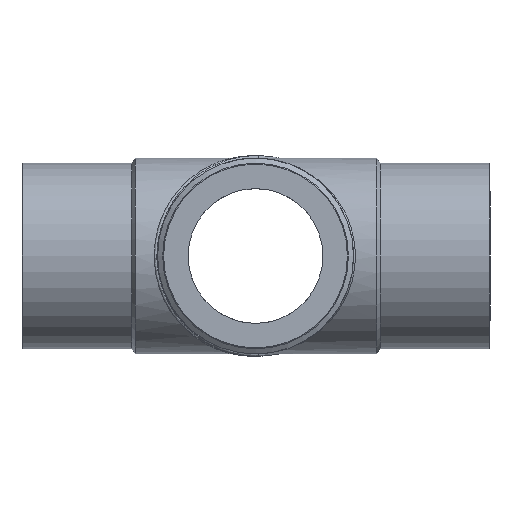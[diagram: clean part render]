
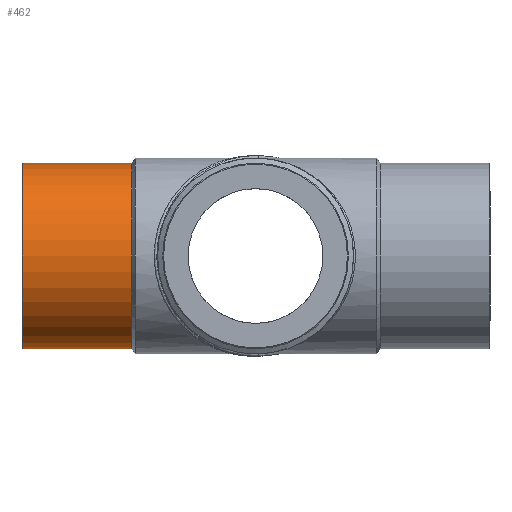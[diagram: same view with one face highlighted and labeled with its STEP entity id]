
A CAD part, front view. The second image highlights one B-rep face of the part: STEP entity #462.
In plain terms, the highlighted cylindrical face has radius 100 mm (diameter 200 mm), a full revolution.
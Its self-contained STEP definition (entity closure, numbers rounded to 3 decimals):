
#46=CIRCLE('',#526,100.);
#47=CIRCLE('',#528,100.);
#70=CYLINDRICAL_SURFACE('',#527,100.);
#120=ORIENTED_EDGE('',*,*,#234,.T.);
#121=ORIENTED_EDGE('',*,*,#233,.T.);
#233=EDGE_CURVE('',#290,#290,#46,.T.);
#234=EDGE_CURVE('',#291,#291,#47,.T.);
#290=VERTEX_POINT('',#929);
#291=VERTEX_POINT('',#932);
#344=EDGE_LOOP('',(#120));
#345=EDGE_LOOP('',(#121));
#402=FACE_BOUND('',#344,.T.);
#403=FACE_BOUND('',#345,.T.);
#462=ADVANCED_FACE('',(#402,#403),#70,.T.);
#526=AXIS2_PLACEMENT_3D('',#928,#600,#601);
#527=AXIS2_PLACEMENT_3D('',#930,#602,#603);
#528=AXIS2_PLACEMENT_3D('',#931,#604,#605);
#600=DIRECTION('',(-1.,0.,0.));
#601=DIRECTION('',(0.,0.,1.));
#602=DIRECTION('',(-1.,0.,0.));
#603=DIRECTION('',(0.,0.,1.));
#604=DIRECTION('',(1.,0.,0.));
#605=DIRECTION('',(0.,0.,-1.));
#928=CARTESIAN_POINT('',(-133.5,0.,0.));
#929=CARTESIAN_POINT('',(-133.5,0.,100.));
#930=CARTESIAN_POINT('',(-60.,0.,0.));
#931=CARTESIAN_POINT('',(-250.5,0.,0.));
#932=CARTESIAN_POINT('',(-250.5,0.,-100.));
